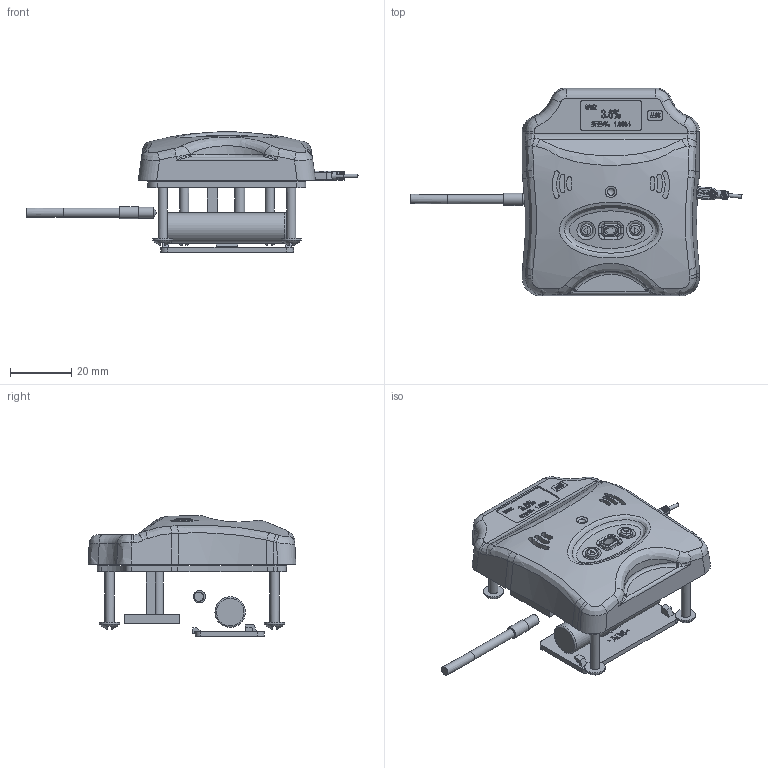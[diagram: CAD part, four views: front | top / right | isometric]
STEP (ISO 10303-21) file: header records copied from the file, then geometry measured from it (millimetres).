
FILE_DESCRIPTION(/* description */ (''),/* implementation_level */ '2;1');
FILE_NAME(/* name */ '第一套分模.stp',/* time_stamp */ '2023-04-15T16:53:01+08:00',/* author */ (''),/* organization */ (''),/* preprocessor_version */ 'ST-DEVELOPER v16.7',/* originating_system */ 'SIEMENS PLM Software NX 12.0',/* authorisation */ '');
FILE_SCHEMA (('AUTOMOTIVE_DESIGN { 1 0 10303 214 3 1 1 1 }'));
Length unit declared in the file: millimetre
Products named in the file (19): S6; S7; S15; S14; S13; S12; 前盖; 耳机线; 电池盖; 电子元件; 电池; 采样器; 显示屏; USB线; 品牌; 电路板; 按钮; 固定螺钉; 第一套装配_stp
Assembly tree (18 placements, depth 3):
  第一套装配_stp
    电路板
    品牌
    USB线
    显示屏
    采样器
    电池
    电子元件
    电池盖
    耳机线
    前盖
    固定螺钉
      S12
      S13
      S14
      S15
    按钮
      S7
      S6
Bounding box: 108.65 x 68 x 39.48 mm (x, y, z)
Volume: 24560.6 mm3; surface area: 26682.5 mm2
Topology: 16 solids, 16 shells, 1681 faces, 4462 edges, 2949 vertices
Faces by surface type: plane 1012, bspline 324, cylinder 304, torus 22, cone 13, sphere 5, extrusion 1
Full cylindrical faces by diameter (mm): 1.17 x1, 2.5 x1, 2.73 x1, 3 x65, 3.324 x1, 3.5 x5, 4 x3, 6 x8, 6.6 x4, 10 x1
Entity records: 89336 total; most frequent: CARTESIAN_POINT 44544, ORIENTED_EDGE 8368, DIRECTION 6240, EDGE_CURVE 4184, VERTEX_POINT 2798, VECTOR 2672, LINE 2671, EDGE_LOOP 1864
